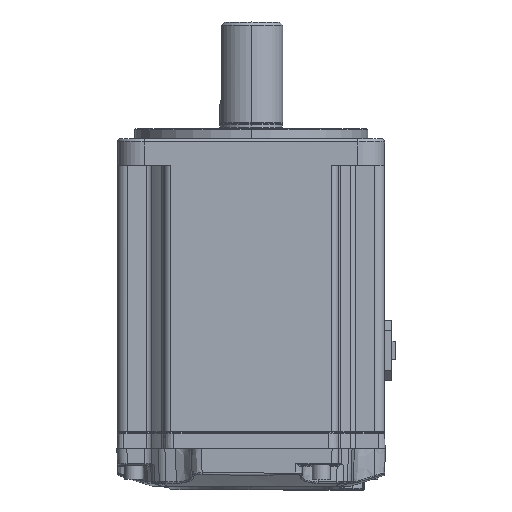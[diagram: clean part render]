
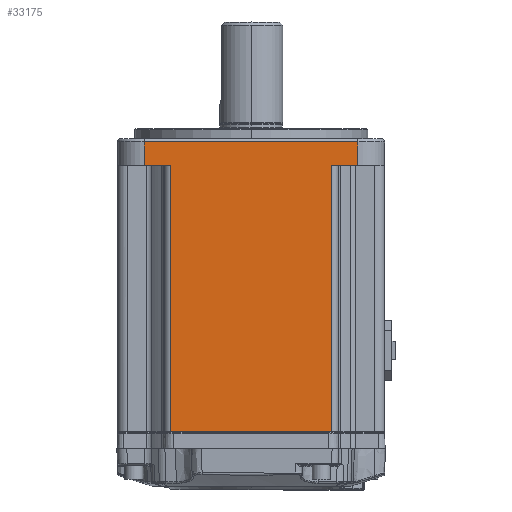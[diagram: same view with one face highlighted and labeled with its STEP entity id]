
A CAD part, top view. The second image highlights one B-rep face of the part: STEP entity #33175.
In plain terms, the highlighted planar face has unit normal (0, 0, 1).
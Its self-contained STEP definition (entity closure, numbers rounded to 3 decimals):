
#7288=DIRECTION('',(1.,0.,0.));
#7289=VECTOR('',#7288,48.069);
#7290=CARTESIAN_POINT('',(-24.035,-87.8,40.));
#7291=LINE('',#7290,#7289);
#7374=DIRECTION('',(1.,0.,0.));
#7375=VECTOR('',#7374,7.965);
#7376=CARTESIAN_POINT('',(24.035,-8.,40.));
#7377=LINE('',#7376,#7375);
#7424=DIRECTION('',(1.,0.,0.));
#7425=VECTOR('',#7424,64.);
#7426=CARTESIAN_POINT('',(-32.,-1.,40.));
#7427=LINE('',#7426,#7425);
#7428=DIRECTION('',(0.,-1.,0.));
#7429=VECTOR('',#7428,7.);
#7430=CARTESIAN_POINT('',(32.,-1.,40.));
#7431=LINE('',#7430,#7429);
#7432=DIRECTION('',(0.,1.,0.));
#7433=VECTOR('',#7432,79.8);
#7434=CARTESIAN_POINT('',(24.035,-87.8,40.));
#7435=LINE('',#7434,#7433);
#7436=DIRECTION('',(0.,1.,0.));
#7437=VECTOR('',#7436,79.8);
#7438=CARTESIAN_POINT('',(-24.035,-87.8,40.));
#7439=LINE('',#7438,#7437);
#7440=DIRECTION('',(0.,-1.,0.));
#7441=VECTOR('',#7440,7.);
#7442=CARTESIAN_POINT('',(-32.,-1.,40.));
#7443=LINE('',#7442,#7441);
#7545=DIRECTION('',(1.,0.,0.));
#7546=VECTOR('',#7545,7.965);
#7547=CARTESIAN_POINT('',(-32.,-8.,40.));
#7548=LINE('',#7547,#7546);
#20554=CARTESIAN_POINT('',(32.,-8.,40.));
#20556=VERTEX_POINT('',#20554);
#20557=CARTESIAN_POINT('',(-32.,-8.,40.));
#20559=VERTEX_POINT('',#20557);
#20609=CARTESIAN_POINT('',(24.035,-87.8,40.));
#20610=VERTEX_POINT('',#20609);
#20611=CARTESIAN_POINT('',(24.035,-8.,40.));
#20612=VERTEX_POINT('',#20611);
#20613=CARTESIAN_POINT('',(-24.035,-87.8,40.));
#20614=CARTESIAN_POINT('',(-24.035,-8.,40.));
#20615=VERTEX_POINT('',#20613);
#20616=VERTEX_POINT('',#20614);
#20659=CARTESIAN_POINT('',(-32.,-1.,40.));
#20660=VERTEX_POINT('',#20659);
#20663=CARTESIAN_POINT('',(32.,-1.,40.));
#20664=VERTEX_POINT('',#20663);
#33155=CARTESIAN_POINT('',(-40.,0.,40.));
#33156=DIRECTION('',(0.,0.,1.));
#33157=DIRECTION('',(1.,0.,0.));
#33158=AXIS2_PLACEMENT_3D('',#33155,#33156,#33157);
#33159=PLANE('',#33158);
#33161=ORIENTED_EDGE('',*,*,#33160,.T.);
#33163=ORIENTED_EDGE('',*,*,#33162,.T.);
#33164=ORIENTED_EDGE('',*,*,#33109,.F.);
#33165=ORIENTED_EDGE('',*,*,#33149,.F.);
#33166=ORIENTED_EDGE('',*,*,#32977,.F.);
#33168=ORIENTED_EDGE('',*,*,#33167,.T.);
#33170=ORIENTED_EDGE('',*,*,#33169,.F.);
#33172=ORIENTED_EDGE('',*,*,#33171,.F.);
#33173=EDGE_LOOP('',(#33161,#33163,#33164,#33165,#33166,#33168,#33170,#33172));
#33174=FACE_OUTER_BOUND('',#33173,.F.);
#33175=ADVANCED_FACE('',(#33174),#33159,.T.);
#32977=EDGE_CURVE('',#20615,#20610,#7291,.T.);
#33109=EDGE_CURVE('',#20612,#20556,#7377,.T.);
#33149=EDGE_CURVE('',#20610,#20612,#7435,.T.);
#33160=EDGE_CURVE('',#20660,#20664,#7427,.T.);
#33162=EDGE_CURVE('',#20664,#20556,#7431,.T.);
#33167=EDGE_CURVE('',#20615,#20616,#7439,.T.);
#33169=EDGE_CURVE('',#20559,#20616,#7548,.T.);
#33171=EDGE_CURVE('',#20660,#20559,#7443,.T.);
